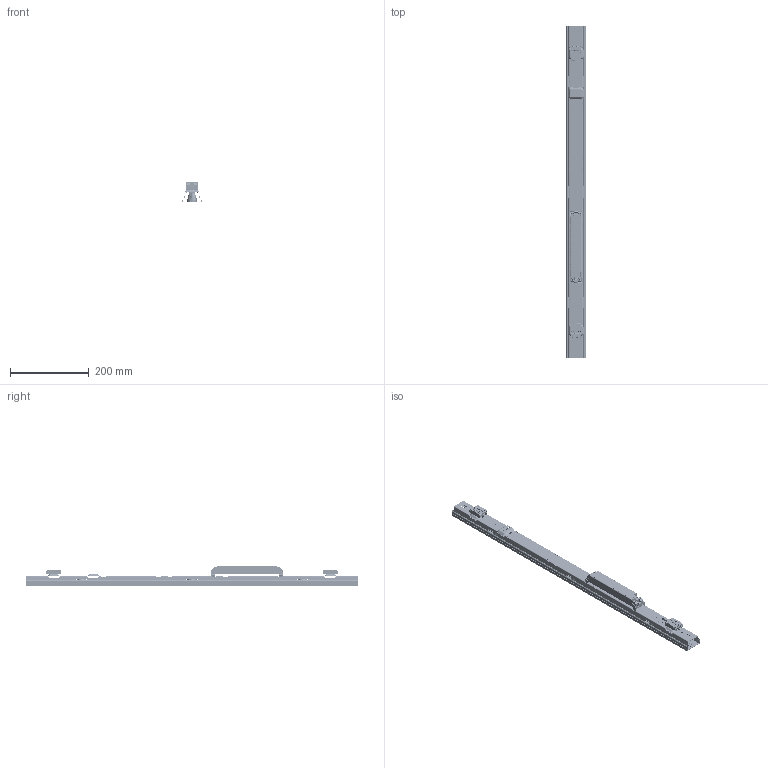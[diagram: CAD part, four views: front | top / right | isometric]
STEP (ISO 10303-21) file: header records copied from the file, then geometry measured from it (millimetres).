
FILE_DESCRIPTION(/* description */ ('This is a sample STEP configuration'),/* implementation_level */ '2;1');
FILE_NAME(/* name */ 'C:\_JPTemp\Daten\715-0707114xxxxxx _Simple.ipt_Rev_00.1.stp',/* time_stamp */ '2022-02-16T13:40:54+01:00',/* author */ ('powerJobs'),/* organization */ ('coolOrange'),/* preprocessor_version */ 'ST-DEVELOPER v18.1',/* originating_system */ 'Autodesk Inventor 2020',/* authorisation */ '');
FILE_SCHEMA (('AUTOMOTIVE_DESIGN { 1 0 10303 214 3 1 1 }'));
Length unit declared in the file: millimetre
Products named in the file (1): ENG000025159
Bounding box: 48.98 x 842.5 x 52.29 mm (x, y, z)
Volume: 182403.1 mm3; surface area: 324871.3 mm2
Topology: 11 solids, 14 shells, 14582 faces, 38930 edges, 24380 vertices
Faces by surface type: bspline 5983, plane 5948, cylinder 2372, cone 127, sphere 109, torus 43
Full cylindrical faces by diameter (mm): 1 x3, 2.7 x6, 3 x6, 3.7 x12, 6.9 x3, 10.2 x3, 26 x3
Entity records: 808522 total; most frequent: CARTESIAN_POINT 461608, ORIENTED_EDGE 77500, DIRECTION 57176, EDGE_CURVE 38750, VERTEX_POINT 24370, LINE 19164, VECTOR 19164, AXIS2_PLACEMENT_3D 19006
